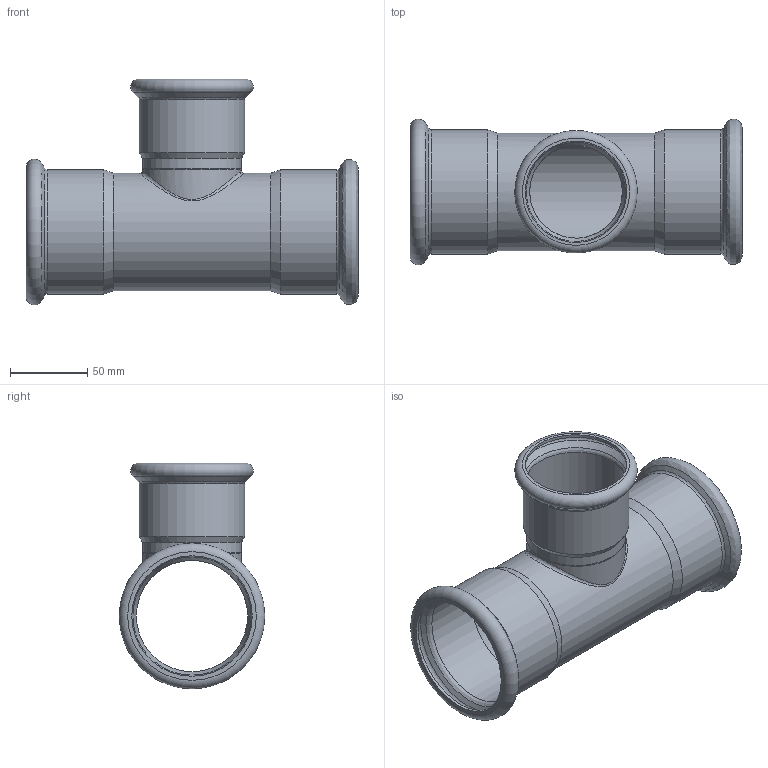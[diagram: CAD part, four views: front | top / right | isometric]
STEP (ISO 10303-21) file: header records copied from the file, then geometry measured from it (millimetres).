
FILE_DESCRIPTION((''),'2;1');
FILE_NAME('G:\Nirosan-Schmiedefeld\Technics\CAD\Bauteile VA\076\69130766476(1).stp','2010-03-11T16:23:20',('herberg'),(''),'Autodesk Inventor 2009','Autodesk Inventor 2009','');
FILE_SCHEMA(('AUTOMOTIVE_DESIGN { 1 0 10303 214 1 1 1 1 }'));
Length unit declared in the file: millimetre
Products named in the file (3): 69130766476(1); LM_69130766476(1); HM_6924364(0)
Assembly tree (2 placements, depth 2):
  69130766476(1)
    LM_69130766476(1)
    HM_6924364(0)
Bounding box: 215 x 94.3 x 146.15 mm (x, y, z)
Volume: 137579.5 mm3; surface area: 139778.2 mm2
Topology: 2 solids, 2 shells, 49 faces, 96 edges, 55 vertices
Faces by surface type: bspline 19, cylinder 12, cone 8, plane 6, torus 4
Full cylindrical faces by diameter (mm): 60 x2, 64 x2, 64.4 x1, 65.7 x1, 68.4 x1, 72.1 x1, 76.1 x1, 76.6 x1, 78 x1, 80.6 x1
Entity records: 3581 total; most frequent: CARTESIAN_POINT 2724, DIRECTION 164, ORIENTED_EDGE 104, EDGE_LOOP 98, AXIS2_PLACEMENT_3D 82, EDGE_CURVE 52, VERTEX_POINT 50, FACE_OUTER_BOUND 49
